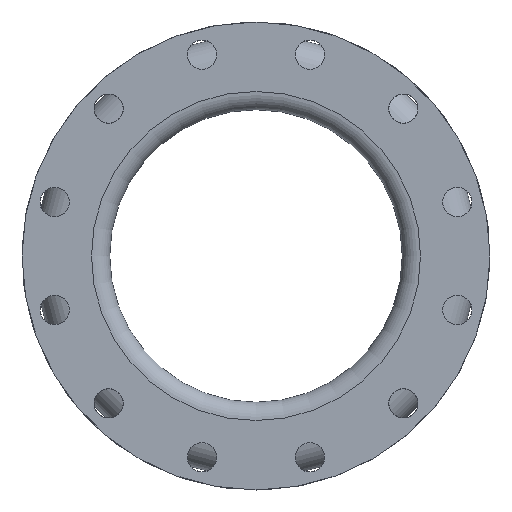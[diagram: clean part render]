
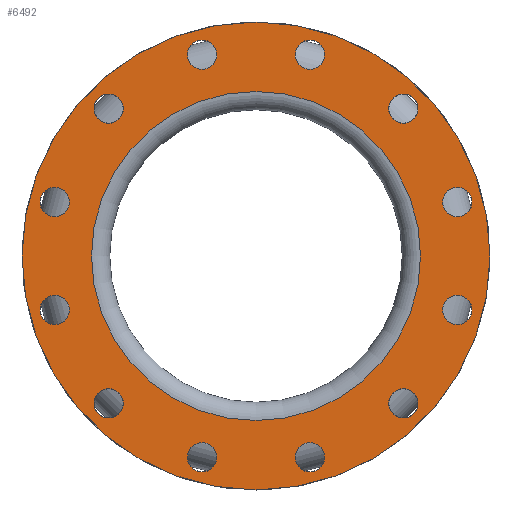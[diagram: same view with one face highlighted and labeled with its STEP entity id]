
A CAD part, left-side view. The second image highlights one B-rep face of the part: STEP entity #6492.
In plain terms, the highlighted planar face has unit normal (-1, 0, 0).
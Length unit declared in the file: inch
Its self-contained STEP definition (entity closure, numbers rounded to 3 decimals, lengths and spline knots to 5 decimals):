
#610=PLANE('',#6936);
#753=FACE_BOUND('',#1389,.T.);
#754=FACE_BOUND('',#1390,.T.);
#755=FACE_BOUND('',#1391,.T.);
#756=FACE_BOUND('',#1392,.T.);
#757=FACE_BOUND('',#1393,.T.);
#758=FACE_BOUND('',#1394,.T.);
#759=FACE_BOUND('',#1395,.T.);
#760=FACE_BOUND('',#1396,.T.);
#761=FACE_BOUND('',#1397,.T.);
#762=FACE_BOUND('',#1398,.T.);
#763=FACE_BOUND('',#1399,.T.);
#764=FACE_BOUND('',#1400,.T.);
#765=FACE_BOUND('',#1401,.T.);
#975=FACE_OUTER_BOUND('',#1388,.T.);
#1388=EDGE_LOOP('',(#4102));
#1389=EDGE_LOOP('',(#4103));
#1390=EDGE_LOOP('',(#4104));
#1391=EDGE_LOOP('',(#4105));
#1392=EDGE_LOOP('',(#4106));
#1393=EDGE_LOOP('',(#4107));
#1394=EDGE_LOOP('',(#4108));
#1395=EDGE_LOOP('',(#4109));
#1396=EDGE_LOOP('',(#4110));
#1397=EDGE_LOOP('',(#4111));
#1398=EDGE_LOOP('',(#4112));
#1399=EDGE_LOOP('',(#4113));
#1400=EDGE_LOOP('',(#4114));
#1401=EDGE_LOOP('',(#4115));
#1907=CIRCLE('',#6835,0.5);
#1909=CIRCLE('',#6838,0.5);
#1911=CIRCLE('',#6841,0.5);
#1913=CIRCLE('',#6844,0.5);
#1915=CIRCLE('',#6847,0.5);
#1917=CIRCLE('',#6850,0.5);
#1919=CIRCLE('',#6853,0.5);
#1921=CIRCLE('',#6856,0.5);
#1923=CIRCLE('',#6859,0.5);
#1925=CIRCLE('',#6862,0.5);
#1927=CIRCLE('',#6865,0.5);
#1929=CIRCLE('',#6868,0.5);
#1969=CIRCLE('',#6935,5.625);
#1970=CIRCLE('',#6937,8.);
#2493=VERTEX_POINT('',#10007);
#2495=VERTEX_POINT('',#10012);
#2497=VERTEX_POINT('',#10017);
#2499=VERTEX_POINT('',#10022);
#2501=VERTEX_POINT('',#10027);
#2503=VERTEX_POINT('',#10032);
#2505=VERTEX_POINT('',#10037);
#2507=VERTEX_POINT('',#10042);
#2509=VERTEX_POINT('',#10047);
#2511=VERTEX_POINT('',#10052);
#2513=VERTEX_POINT('',#10057);
#2515=VERTEX_POINT('',#10062);
#2555=VERTEX_POINT('',#10169);
#2556=VERTEX_POINT('',#10172);
#3135=EDGE_CURVE('',#2493,#2493,#1907,.T.);
#3137=EDGE_CURVE('',#2495,#2495,#1909,.T.);
#3139=EDGE_CURVE('',#2497,#2497,#1911,.T.);
#3141=EDGE_CURVE('',#2499,#2499,#1913,.T.);
#3143=EDGE_CURVE('',#2501,#2501,#1915,.T.);
#3145=EDGE_CURVE('',#2503,#2503,#1917,.T.);
#3147=EDGE_CURVE('',#2505,#2505,#1919,.T.);
#3149=EDGE_CURVE('',#2507,#2507,#1921,.T.);
#3151=EDGE_CURVE('',#2509,#2509,#1923,.T.);
#3153=EDGE_CURVE('',#2511,#2511,#1925,.T.);
#3155=EDGE_CURVE('',#2513,#2513,#1927,.T.);
#3157=EDGE_CURVE('',#2515,#2515,#1929,.T.);
#3197=EDGE_CURVE('',#2555,#2555,#1969,.T.);
#3198=EDGE_CURVE('',#2556,#2556,#1970,.T.);
#4102=ORIENTED_EDGE('',*,*,#3198,.F.);
#4103=ORIENTED_EDGE('',*,*,#3135,.T.);
#4104=ORIENTED_EDGE('',*,*,#3137,.T.);
#4105=ORIENTED_EDGE('',*,*,#3139,.T.);
#4106=ORIENTED_EDGE('',*,*,#3141,.T.);
#4107=ORIENTED_EDGE('',*,*,#3143,.T.);
#4108=ORIENTED_EDGE('',*,*,#3145,.T.);
#4109=ORIENTED_EDGE('',*,*,#3147,.T.);
#4110=ORIENTED_EDGE('',*,*,#3149,.T.);
#4111=ORIENTED_EDGE('',*,*,#3151,.T.);
#4112=ORIENTED_EDGE('',*,*,#3153,.T.);
#4113=ORIENTED_EDGE('',*,*,#3155,.T.);
#4114=ORIENTED_EDGE('',*,*,#3157,.T.);
#4115=ORIENTED_EDGE('',*,*,#3197,.T.);
#6492=ADVANCED_FACE('',(#975,#753,#754,#755,#756,#757,#758,#759,#760,#761,
#762,#763,#764,#765),#610,.T.);
#6835=AXIS2_PLACEMENT_3D('',#10008,#7799,#7800);
#6838=AXIS2_PLACEMENT_3D('',#10013,#7805,#7806);
#6841=AXIS2_PLACEMENT_3D('',#10018,#7811,#7812);
#6844=AXIS2_PLACEMENT_3D('',#10023,#7817,#7818);
#6847=AXIS2_PLACEMENT_3D('',#10028,#7823,#7824);
#6850=AXIS2_PLACEMENT_3D('',#10033,#7829,#7830);
#6853=AXIS2_PLACEMENT_3D('',#10038,#7835,#7836);
#6856=AXIS2_PLACEMENT_3D('',#10043,#7841,#7842);
#6859=AXIS2_PLACEMENT_3D('',#10048,#7847,#7848);
#6862=AXIS2_PLACEMENT_3D('',#10053,#7853,#7854);
#6865=AXIS2_PLACEMENT_3D('',#10058,#7859,#7860);
#6868=AXIS2_PLACEMENT_3D('',#10063,#7865,#7866);
#6935=AXIS2_PLACEMENT_3D('',#10170,#7999,#8000);
#6936=AXIS2_PLACEMENT_3D('',#10171,#8001,#8002);
#6937=AXIS2_PLACEMENT_3D('',#10173,#8003,#8004);
#7799=DIRECTION('center_axis',(1.,0.,0.));
#7800=DIRECTION('ref_axis',(0.,-0.866,0.5));
#7805=DIRECTION('center_axis',(1.,0.,0.));
#7806=DIRECTION('ref_axis',(0.,-0.5,0.866));
#7811=DIRECTION('center_axis',(1.,0.,0.));
#7812=DIRECTION('ref_axis',(0.,0.,
1.));
#7817=DIRECTION('center_axis',(1.,0.,0.));
#7818=DIRECTION('ref_axis',(0.,0.5,0.866));
#7823=DIRECTION('center_axis',(1.,0.,0.));
#7824=DIRECTION('ref_axis',(0.,0.866,0.5));
#7829=DIRECTION('center_axis',(1.,0.,0.));
#7830=DIRECTION('ref_axis',(0.,1.,0.));
#7835=DIRECTION('center_axis',(1.,0.,0.));
#7836=DIRECTION('ref_axis',(0.,0.866,-0.5));
#7841=DIRECTION('center_axis',(1.,0.,0.));
#7842=DIRECTION('ref_axis',(0.,0.5,-0.866));
#7847=DIRECTION('center_axis',(1.,0.,0.));
#7848=DIRECTION('ref_axis',(0.,0.,
-1.));
#7853=DIRECTION('center_axis',(1.,0.,0.));
#7854=DIRECTION('ref_axis',(0.,-0.5,-0.866));
#7859=DIRECTION('center_axis',(1.,0.,0.));
#7860=DIRECTION('ref_axis',(0.,-0.866,-0.5));
#7865=DIRECTION('center_axis',(1.,0.,0.));
#7866=DIRECTION('ref_axis',(0.,-1.,0.));
#7999=DIRECTION('center_axis',(1.,0.,0.));
#8000=DIRECTION('ref_axis',(0.,0.,-1.));
#8001=DIRECTION('center_axis',(-1.,0.,0.));
#8002=DIRECTION('ref_axis',(0.,0.,1.));
#8003=DIRECTION('center_axis',(1.,0.,0.));
#8004=DIRECTION('ref_axis',(0.,0.,-1.));
#10007=CARTESIAN_POINT('',(-8.,5.47115,-5.28814));
#10008=CARTESIAN_POINT('Origin',(-8.,5.03814,-5.03814));
#10012=CARTESIAN_POINT('',(-8.,2.09409,-7.31523));
#10013=CARTESIAN_POINT('Origin',(-8.,1.84409,-6.88222));
#10017=CARTESIAN_POINT('',(-8.,-1.84409,-7.38222));
#10018=CARTESIAN_POINT('Origin',(-8.,-1.84409,-6.88222));
#10022=CARTESIAN_POINT('',(-8.,-5.28814,-5.47115));
#10023=CARTESIAN_POINT('Origin',(-8.,-5.03814,-5.03814));
#10027=CARTESIAN_POINT('',(-8.,-7.31523,-2.09409));
#10028=CARTESIAN_POINT('Origin',(-8.,-6.88222,-1.84409));
#10032=CARTESIAN_POINT('',(-8.,-7.38222,1.84409));
#10033=CARTESIAN_POINT('Origin',(-8.,-6.88222,1.84409));
#10037=CARTESIAN_POINT('',(-8.,-5.47115,5.28814));
#10038=CARTESIAN_POINT('Origin',(-8.,-5.03814,5.03814));
#10042=CARTESIAN_POINT('',(-8.,-2.09409,7.31523));
#10043=CARTESIAN_POINT('Origin',(-8.,-1.84409,6.88222));
#10047=CARTESIAN_POINT('',(-8.,1.84409,7.38222));
#10048=CARTESIAN_POINT('Origin',(-8.,1.84409,6.88222));
#10052=CARTESIAN_POINT('',(-8.,5.28814,5.47115));
#10053=CARTESIAN_POINT('Origin',(-8.,5.03814,5.03814));
#10057=CARTESIAN_POINT('',(-8.,7.31523,2.09409));
#10058=CARTESIAN_POINT('Origin',(-8.,6.88222,1.84409));
#10062=CARTESIAN_POINT('',(-8.,7.38222,-1.84409));
#10063=CARTESIAN_POINT('Origin',(-8.,6.88222,-1.84409));
#10169=CARTESIAN_POINT('',(-8.,5.625,0.));
#10170=CARTESIAN_POINT('Origin',(-8.,0.,0.));
#10171=CARTESIAN_POINT('Origin',(-8.,8.,0.));
#10172=CARTESIAN_POINT('',(-8.,8.,0.));
#10173=CARTESIAN_POINT('Origin',(-8.,0.,
0.));
